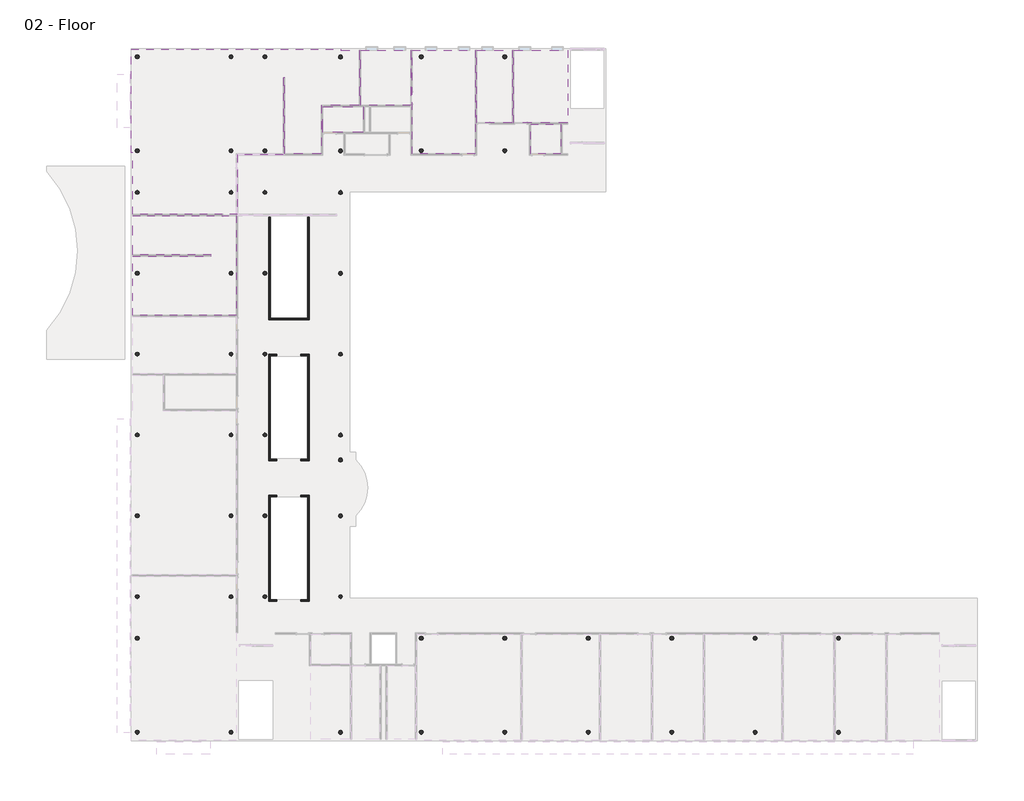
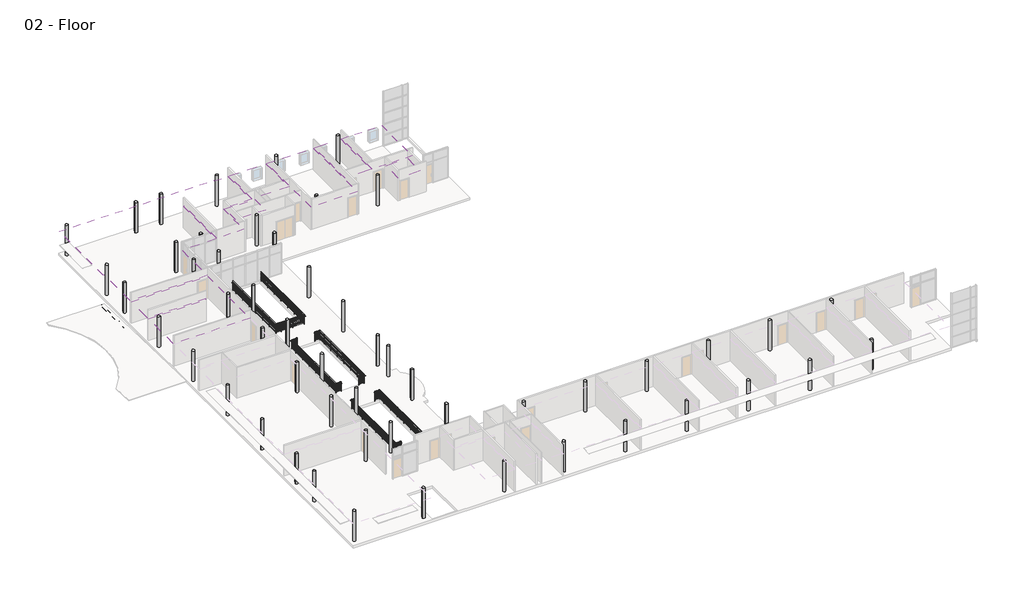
# One storey, part 5 of 5: 53 columns, 8 coverings, 5 railings, 2 beams.
"""IFC4 building model written with IfcOpenShell, lengths in millimetres."""

from ifc_helpers import new_model, si_unit, point, frame, frame_2d, origin, place, context, project, spatial, polyline, circle_curve, trimmed, segment, composite_curve, outline, extrude, transform, mapped, element, save
from components import w_wide_flange_w12x26_481373e5, w_wide_flange_w12x26_f0aa8a0b, guardrail_pipe_205078b6, guardrail_pipe_9d1b1329, guardrail_pipe_d5d2aec2, guardrail_pipe_e3ced1c5, guardrail_pipe_2c45154f

model = new_model("IFC4")

# Units and contexts
model_context = context("Model", 3, world=origin())
ifc_project = project(units=[si_unit("LENGTHUNIT", "METRE", prefix="MILLI")], contexts=[model_context])

# Site, building, storey
site = spatial("IfcSite", under=ifc_project)
building = spatial("IfcBuilding", under=site)
storey = spatial("IfcBuildingStorey", under=building, Name="02 - Floor", Elevation=3657.6)

# Beams
placement = place(None, origin())
w_wide_flange_w12x26_shape = w_wide_flange_w12x26_481373e5(model_context)
element("IfcBeam", 1, ObjectType="W-Wide Flange : W12X26", at=placement, inside=storey, context=model_context, shape_type="MappedRepresentation", body=[
    mapped(w_wide_flange_w12x26_shape, transform((-6018.8792524, 30981.9242436, 3911.1226133), x_axis=(0.0, -0.9995616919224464, 0.029604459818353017), y_axis=(1.0, 0.0, 0.0), z_axis=(0.0, 0.029604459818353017, 0.9995616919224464))),
])
w_wide_flange_w12x26_2_shape = w_wide_flange_w12x26_f0aa8a0b(model_context)
element("IfcBeam", 2, ObjectType="W-Wide Flange : W12X26", at=placement, inside=storey, context=model_context, shape_type="MappedRepresentation", body=[
    mapped(w_wide_flange_w12x26_2_shape, transform((-532.4792524, 37372.862881, 3751.8615157), x_axis=(0.0, -0.9996747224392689, 0.025503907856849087), y_axis=(1.0, 0.0, 0.0), z_axis=(0.0, 0.025503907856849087, 0.9996747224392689))),
])

# Columns
element("IfcColumn", 3, ObjectType="Concrete-Round-Column : 12\"", at=placement, inside=storey, context=model_context, shape_type="SweptSolid", body=[
    extrude(outline(composite_curve([segment(trimmed(circle_curve(frame_2d((635.9207476, 53228.8)), 152.4), [point((788.3207476, 53228.8))], [point((483.5207476, 53228.8))], False, "CARTESIAN"), True, "CONTINUOUS"), segment(trimmed(circle_curve(frame_2d((635.9207476, 53228.8)), 152.4), [point((483.5207476, 53228.8))], [point((788.3207476, 53228.8))], False, "CARTESIAN"), True, "CONTINUOUS")], self_intersect=False)), frame((0.0, 0.0, 3657.6), z_axis=(0.0, 0.0, 1.0), x_axis=(1.0, 0.0, 0.0)), (0.0, 0.0, 1.0), 3403.6),
])
element("IfcColumn", 4, ObjectType="Concrete-Round-Column : 12\"", at=placement, inside=storey, context=model_context, shape_type="SweptSolid", body=[
    extrude(outline(composite_curve([segment(trimmed(circle_curve(frame_2d((635.9207476, 45913.6)), 152.4), [point((788.3207476, 45913.6))], [point((483.5207476, 45913.6))], False, "CARTESIAN"), True, "CONTINUOUS"), segment(trimmed(circle_curve(frame_2d((635.9207476, 45913.6)), 152.4), [point((483.5207476, 45913.6))], [point((788.3207476, 45913.6))], False, "CARTESIAN"), True, "CONTINUOUS")], self_intersect=False)), frame((0.0, 0.0, 3657.6), z_axis=(0.0, 0.0, 1.0), x_axis=(1.0, 0.0, 0.0)), (0.0, 0.0, 1.0), 3403.6),
])
element("IfcColumn", 5, ObjectType="Concrete-Round-Column : 12\"", at=placement, inside=storey, context=model_context, shape_type="SweptSolid", body=[
    extrude(outline(composite_curve([segment(trimmed(circle_curve(frame_2d((635.9207476, 42662.4)), 152.4), [point((788.3207476, 42662.4))], [point((483.5207476, 42662.4))], False, "CARTESIAN"), True, "CONTINUOUS"), segment(trimmed(circle_curve(frame_2d((635.9207476, 42662.4)), 152.4), [point((483.5207476, 42662.4))], [point((788.3207476, 42662.4))], False, "CARTESIAN"), True, "CONTINUOUS")], self_intersect=False)), frame((0.0, 0.0, 3657.6), z_axis=(0.0, 0.0, 1.0), x_axis=(1.0, 0.0, 0.0)), (0.0, 0.0, 1.0), 3403.6),
])
element("IfcColumn", 6, ObjectType="Concrete-Round-Column : 12\"", at=placement, inside=storey, context=model_context, shape_type="SweptSolid", body=[
    extrude(outline(composite_curve([segment(trimmed(circle_curve(frame_2d((635.9207476, 36363.2)), 152.4), [point((788.3207476, 36363.2))], [point((483.5207476, 36363.2))], False, "CARTESIAN"), True, "CONTINUOUS"), segment(trimmed(circle_curve(frame_2d((635.9207476, 36363.2)), 152.4), [point((483.5207476, 36363.2))], [point((788.3207476, 36363.2))], False, "CARTESIAN"), True, "CONTINUOUS")], self_intersect=False)), frame((0.0, 0.0, 3657.6), z_axis=(0.0, 0.0, 1.0), x_axis=(1.0, 0.0, 0.0)), (0.0, 0.0, 1.0), 3403.6),
])
element("IfcColumn", 7, ObjectType="Concrete-Round-Column : 12\"", at=placement, inside=storey, context=model_context, shape_type="SweptSolid", body=[
    extrude(outline(composite_curve([segment(trimmed(circle_curve(frame_2d((635.9207476, 30064.0)), 152.4), [point((788.3207476, 30064.0))], [point((483.5207476, 30064.0))], False, "CARTESIAN"), True, "CONTINUOUS"), segment(trimmed(circle_curve(frame_2d((635.9207476, 30064.0)), 152.4), [point((483.5207476, 30064.0))], [point((788.3207476, 30064.0))], False, "CARTESIAN"), True, "CONTINUOUS")], self_intersect=False)), frame((0.0, 0.0, 3657.6), z_axis=(0.0, 0.0, 1.0), x_axis=(1.0, 0.0, 0.0)), (0.0, 0.0, 1.0), 3403.6),
])
element("IfcColumn", 8, ObjectType="Concrete-Round-Column : 12\"", at=placement, inside=storey, context=model_context, shape_type="SweptSolid", body=[
    extrude(outline(composite_curve([segment(trimmed(circle_curve(frame_2d((635.9207476, 23764.8)), 152.4), [point((788.3207476, 23764.8))], [point((483.5207476, 23764.8))], False, "CARTESIAN"), True, "CONTINUOUS"), segment(trimmed(circle_curve(frame_2d((635.9207476, 23764.8)), 152.4), [point((483.5207476, 23764.8))], [point((788.3207476, 23764.8))], False, "CARTESIAN"), True, "CONTINUOUS")], self_intersect=False)), frame((0.0, 0.0, 3657.6), z_axis=(0.0, 0.0, 1.0), x_axis=(1.0, 0.0, 0.0)), (0.0, 0.0, 1.0), 3403.6),
])
element("IfcColumn", 9, ObjectType="Concrete-Round-Column : 12\"", at=placement, inside=storey, context=model_context, shape_type="SweptSolid", body=[
    extrude(outline(composite_curve([segment(trimmed(circle_curve(frame_2d((635.9207476, 17465.6)), 152.4), [point((788.3207476, 17465.6))], [point((483.5207476, 17465.6))], False, "CARTESIAN"), True, "CONTINUOUS"), segment(trimmed(circle_curve(frame_2d((635.9207476, 17465.6)), 152.4), [point((483.5207476, 17465.6))], [point((788.3207476, 17465.6))], False, "CARTESIAN"), True, "CONTINUOUS")], self_intersect=False)), frame((0.0, 0.0, 3657.6), z_axis=(0.0, 0.0, 1.0), x_axis=(1.0, 0.0, 0.0)), (0.0, 0.0, 1.0), 3403.6),
])
element("IfcColumn", 10, ObjectType="Concrete-Round-Column : 12\"", at=placement, inside=storey, context=model_context, shape_type="SweptSolid", body=[
    extrude(outline(composite_curve([segment(trimmed(circle_curve(frame_2d((635.9207476, 11166.4)), 152.4), [point((788.3207476, 11166.4))], [point((483.5207476, 11166.4))], False, "CARTESIAN"), True, "CONTINUOUS"), segment(trimmed(circle_curve(frame_2d((635.9207476, 11166.4)), 152.4), [point((483.5207476, 11166.4))], [point((788.3207476, 11166.4))], False, "CARTESIAN"), True, "CONTINUOUS")], self_intersect=False)), frame((0.0, 0.0, 3657.6), z_axis=(0.0, 0.0, 1.0), x_axis=(1.0, 0.0, 0.0)), (0.0, 0.0, 1.0), 3403.6),
])
element("IfcColumn", 11, ObjectType="Concrete-Round-Column : 12\"", at=placement, inside=storey, context=model_context, shape_type="SweptSolid", body=[
    extrude(outline(composite_curve([segment(trimmed(circle_curve(frame_2d((635.9207476, 7915.2)), 152.4), [point((788.3207476, 7915.2))], [point((483.5207476, 7915.2))], False, "CARTESIAN"), True, "CONTINUOUS"), segment(trimmed(circle_curve(frame_2d((635.9207476, 7915.2)), 152.4), [point((483.5207476, 7915.2))], [point((788.3207476, 7915.2))], False, "CARTESIAN"), True, "CONTINUOUS")], self_intersect=False)), frame((0.0, 0.0, 3657.6), z_axis=(0.0, 0.0, 1.0), x_axis=(1.0, 0.0, 0.0)), (0.0, 0.0, 1.0), 3403.6),
])
element("IfcColumn", 12, ObjectType="Concrete-Round-Column : 12\"", at=placement, inside=storey, context=model_context, shape_type="SweptSolid", body=[
    extrude(outline(composite_curve([segment(trimmed(circle_curve(frame_2d((635.9207476, 600.0)), 152.4), [point((788.3207476, 600.0))], [point((483.5207476, 600.0))], False, "CARTESIAN"), True, "CONTINUOUS"), segment(trimmed(circle_curve(frame_2d((635.9207476, 600.0)), 152.4), [point((483.5207476, 600.0))], [point((788.3207476, 600.0))], False, "CARTESIAN"), True, "CONTINUOUS")], self_intersect=False)), frame((0.0, 0.0, 3657.6), z_axis=(0.0, 0.0, 1.0), x_axis=(1.0, 0.0, 0.0)), (0.0, 0.0, 1.0), 3403.6),
])
element("IfcColumn", 13, ObjectType="Concrete-Round-Column : 12\"", at=placement, inside=storey, context=model_context, shape_type="SweptSolid", body=[
    extrude(outline(composite_curve([segment(trimmed(circle_curve(frame_2d((10592.7207476, 53228.8)), 152.4), [point((10745.1207476, 53228.8))], [point((10440.3207476, 53228.8))], False, "CARTESIAN"), True, "CONTINUOUS"), segment(trimmed(circle_curve(frame_2d((10592.7207476, 53228.8)), 152.4), [point((10440.3207476, 53228.8))], [point((10745.1207476, 53228.8))], False, "CARTESIAN"), True, "CONTINUOUS")], self_intersect=False)), frame((0.0, 0.0, 3657.6), z_axis=(0.0, 0.0, 1.0), x_axis=(1.0, 0.0, 0.0)), (0.0, 0.0, 1.0), 3403.6),
])
element("IfcColumn", 14, ObjectType="Concrete-Round-Column : 12\"", at=placement, inside=storey, context=model_context, shape_type="SweptSolid", body=[
    extrude(outline(composite_curve([segment(trimmed(circle_curve(frame_2d((10592.7207476, 45913.6)), 152.4), [point((10745.1207476, 45913.6))], [point((10440.3207476, 45913.6))], False, "CARTESIAN"), True, "CONTINUOUS"), segment(trimmed(circle_curve(frame_2d((10592.7207476, 45913.6)), 152.4), [point((10440.3207476, 45913.6))], [point((10745.1207476, 45913.6))], False, "CARTESIAN"), True, "CONTINUOUS")], self_intersect=False)), frame((0.0, 0.0, 3657.6), z_axis=(0.0, 0.0, 1.0), x_axis=(1.0, 0.0, 0.0)), (0.0, 0.0, 1.0), 3403.6),
])
element("IfcColumn", 15, ObjectType="Concrete-Round-Column : 12\"", at=placement, inside=storey, context=model_context, shape_type="SweptSolid", body=[
    extrude(outline(composite_curve([segment(trimmed(circle_curve(frame_2d((10592.7207476, 42662.4)), 152.4), [point((10745.1207476, 42662.4))], [point((10440.3207476, 42662.4))], False, "CARTESIAN"), True, "CONTINUOUS"), segment(trimmed(circle_curve(frame_2d((10592.7207476, 42662.4)), 152.4), [point((10440.3207476, 42662.4))], [point((10745.1207476, 42662.4))], False, "CARTESIAN"), True, "CONTINUOUS")], self_intersect=False)), frame((0.0, 0.0, 3657.6), z_axis=(0.0, 0.0, 1.0), x_axis=(1.0, 0.0, 0.0)), (0.0, 0.0, 1.0), 3403.6),
])
element("IfcColumn", 16, ObjectType="Concrete-Round-Column : 12\"", at=placement, inside=storey, context=model_context, shape_type="SweptSolid", body=[
    extrude(outline(composite_curve([segment(trimmed(circle_curve(frame_2d((10592.7207476, 36363.2)), 152.4), [point((10745.1207476, 36363.2))], [point((10440.3207476, 36363.2))], False, "CARTESIAN"), True, "CONTINUOUS"), segment(trimmed(circle_curve(frame_2d((10592.7207476, 36363.2)), 152.4), [point((10440.3207476, 36363.2))], [point((10745.1207476, 36363.2))], False, "CARTESIAN"), True, "CONTINUOUS")], self_intersect=False)), frame((0.0, 0.0, 3657.6), z_axis=(0.0, 0.0, 1.0), x_axis=(1.0, 0.0, 0.0)), (0.0, 0.0, 1.0), 3403.6),
])
element("IfcColumn", 17, ObjectType="Concrete-Round-Column : 12\"", at=placement, inside=storey, context=model_context, shape_type="SweptSolid", body=[
    extrude(outline(composite_curve([segment(trimmed(circle_curve(frame_2d((10592.7207476, 30064.0)), 152.4), [point((10745.1207476, 30064.0))], [point((10440.3207476, 30064.0))], False, "CARTESIAN"), True, "CONTINUOUS"), segment(trimmed(circle_curve(frame_2d((10592.7207476, 30064.0)), 152.4), [point((10440.3207476, 30064.0))], [point((10745.1207476, 30064.0))], False, "CARTESIAN"), True, "CONTINUOUS")], self_intersect=False)), frame((0.0, 0.0, 3657.6), z_axis=(0.0, 0.0, 1.0), x_axis=(1.0, 0.0, 0.0)), (0.0, 0.0, 1.0), 3403.6),
])
element("IfcColumn", 18, ObjectType="Concrete-Round-Column : 12\"", at=placement, inside=storey, context=model_context, shape_type="SweptSolid", body=[
    extrude(outline(composite_curve([segment(trimmed(circle_curve(frame_2d((10592.7207476, 23764.8)), 152.4), [point((10745.1207476, 23764.8))], [point((10440.3207476, 23764.8))], False, "CARTESIAN"), True, "CONTINUOUS"), segment(trimmed(circle_curve(frame_2d((10592.7207476, 23764.8)), 152.4), [point((10440.3207476, 23764.8))], [point((10745.1207476, 23764.8))], False, "CARTESIAN"), True, "CONTINUOUS")], self_intersect=False)), frame((0.0, 0.0, 3657.6), z_axis=(0.0, 0.0, 1.0), x_axis=(1.0, 0.0, 0.0)), (0.0, 0.0, 1.0), 3403.6),
])
element("IfcColumn", 19, ObjectType="Concrete-Round-Column : 12\"", at=placement, inside=storey, context=model_context, shape_type="SweptSolid", body=[
    extrude(outline(composite_curve([segment(trimmed(circle_curve(frame_2d((10592.7207476, 17465.6)), 152.4), [point((10745.1207476, 17465.6))], [point((10440.3207476, 17465.6))], False, "CARTESIAN"), True, "CONTINUOUS"), segment(trimmed(circle_curve(frame_2d((10592.7207476, 17465.6)), 152.4), [point((10440.3207476, 17465.6))], [point((10745.1207476, 17465.6))], False, "CARTESIAN"), True, "CONTINUOUS")], self_intersect=False)), frame((0.0, 0.0, 3657.6), z_axis=(0.0, 0.0, 1.0), x_axis=(1.0, 0.0, 0.0)), (0.0, 0.0, 1.0), 3403.6),
])
element("IfcColumn", 20, ObjectType="Concrete-Round-Column : 12\"", at=placement, inside=storey, context=model_context, shape_type="SweptSolid", body=[
    extrude(outline(composite_curve([segment(trimmed(circle_curve(frame_2d((10592.7207476, 11166.4)), 152.4), [point((10745.1207476, 11166.4))], [point((10440.3207476, 11166.4))], False, "CARTESIAN"), True, "CONTINUOUS"), segment(trimmed(circle_curve(frame_2d((10592.7207476, 11166.4)), 152.4), [point((10440.3207476, 11166.4))], [point((10745.1207476, 11166.4))], False, "CARTESIAN"), True, "CONTINUOUS")], self_intersect=False)), frame((0.0, 0.0, 3657.6), z_axis=(0.0, 0.0, 1.0), x_axis=(1.0, 0.0, 0.0)), (0.0, 0.0, 1.0), 3403.6),
])
element("IfcColumn", 21, ObjectType="Concrete-Round-Column : 12\"", at=placement, inside=storey, context=model_context, shape_type="SweptSolid", body=[
    extrude(outline(composite_curve([segment(trimmed(circle_curve(frame_2d((16485.5207476, 53228.8)), 152.4), [point((16637.9207476, 53228.8))], [point((16333.1207476, 53228.8))], False, "CARTESIAN"), True, "CONTINUOUS"), segment(trimmed(circle_curve(frame_2d((16485.5207476, 53228.8)), 152.4), [point((16333.1207476, 53228.8))], [point((16637.9207476, 53228.8))], False, "CARTESIAN"), True, "CONTINUOUS")], self_intersect=False)), frame((0.0, 0.0, 3657.6), z_axis=(0.0, 0.0, 1.0), x_axis=(1.0, 0.0, 0.0)), (0.0, 0.0, 1.0), 3403.6),
])
element("IfcColumn", 22, ObjectType="Concrete-Round-Column : 12\"", at=placement, inside=storey, context=model_context, shape_type="SweptSolid", body=[
    extrude(outline(composite_curve([segment(trimmed(circle_curve(frame_2d((16485.5207476, 45913.6)), 152.4), [point((16637.9207476, 45913.6))], [point((16333.1207476, 45913.6))], False, "CARTESIAN"), True, "CONTINUOUS"), segment(trimmed(circle_curve(frame_2d((16485.5207476, 45913.6)), 152.4), [point((16333.1207476, 45913.6))], [point((16637.9207476, 45913.6))], False, "CARTESIAN"), True, "CONTINUOUS")], self_intersect=False)), frame((0.0, 0.0, 3657.6), z_axis=(0.0, 0.0, 1.0), x_axis=(1.0, 0.0, 0.0)), (0.0, 0.0, 1.0), 3403.6),
])
element("IfcColumn", 23, ObjectType="Concrete-Round-Column : 12\"", at=placement, inside=storey, context=model_context, shape_type="SweptSolid", body=[
    extrude(outline(composite_curve([segment(trimmed(circle_curve(frame_2d((16485.5207476, 42662.4)), 152.4), [point((16637.9207476, 42662.4))], [point((16333.1207476, 42662.4))], False, "CARTESIAN"), True, "CONTINUOUS"), segment(trimmed(circle_curve(frame_2d((16485.5207476, 42662.4)), 152.4), [point((16333.1207476, 42662.4))], [point((16637.9207476, 42662.4))], False, "CARTESIAN"), True, "CONTINUOUS")], self_intersect=False)), frame((0.0, 0.0, 3657.6), z_axis=(0.0, 0.0, 1.0), x_axis=(1.0, 0.0, 0.0)), (0.0, 0.0, 1.0), 3403.6),
])
element("IfcColumn", 24, ObjectType="Concrete-Round-Column : 12\"", at=placement, inside=storey, context=model_context, shape_type="SweptSolid", body=[
    extrude(outline(composite_curve([segment(trimmed(circle_curve(frame_2d((16485.5207476, 36363.2)), 152.4), [point((16637.9207476, 36363.2))], [point((16333.1207476, 36363.2))], False, "CARTESIAN"), True, "CONTINUOUS"), segment(trimmed(circle_curve(frame_2d((16485.5207476, 36363.2)), 152.4), [point((16333.1207476, 36363.2))], [point((16637.9207476, 36363.2))], False, "CARTESIAN"), True, "CONTINUOUS")], self_intersect=False)), frame((0.0, 0.0, 3657.6), z_axis=(0.0, 0.0, 1.0), x_axis=(1.0, 0.0, 0.0)), (0.0, 0.0, 1.0), 3403.6),
])
element("IfcColumn", 25, ObjectType="Concrete-Round-Column : 12\"", at=placement, inside=storey, context=model_context, shape_type="SweptSolid", body=[
    extrude(outline(composite_curve([segment(trimmed(circle_curve(frame_2d((16485.5207476, 30064.0)), 152.4), [point((16637.9207476, 30064.0))], [point((16333.1207476, 30064.0))], False, "CARTESIAN"), True, "CONTINUOUS"), segment(trimmed(circle_curve(frame_2d((16485.5207476, 30064.0)), 152.4), [point((16333.1207476, 30064.0))], [point((16637.9207476, 30064.0))], False, "CARTESIAN"), True, "CONTINUOUS")], self_intersect=False)), frame((0.0, 0.0, 3657.6), z_axis=(0.0, 0.0, 1.0), x_axis=(1.0, 0.0, 0.0)), (0.0, 0.0, 1.0), 3403.6),
])
element("IfcColumn", 26, ObjectType="Concrete-Round-Column : 12\"", at=placement, inside=storey, context=model_context, shape_type="SweptSolid", body=[
    extrude(outline(composite_curve([segment(trimmed(circle_curve(frame_2d((16485.5207476, 23764.8)), 152.4), [point((16637.9207476, 23764.8))], [point((16333.1207476, 23764.8))], False, "CARTESIAN"), True, "CONTINUOUS"), segment(trimmed(circle_curve(frame_2d((16485.5207476, 23764.8)), 152.4), [point((16333.1207476, 23764.8))], [point((16637.9207476, 23764.8))], False, "CARTESIAN"), True, "CONTINUOUS")], self_intersect=False)), frame((0.0, 0.0, 3657.6), z_axis=(0.0, 0.0, 1.0), x_axis=(1.0, 0.0, 0.0)), (0.0, 0.0, 1.0), 3403.6),
])
element("IfcColumn", 27, ObjectType="Concrete-Round-Column : 12\"", at=placement, inside=storey, context=model_context, shape_type="SweptSolid", body=[
    extrude(outline(composite_curve([segment(trimmed(circle_curve(frame_2d((16485.5207476, 17465.6)), 152.4), [point((16637.9207476, 17465.6))], [point((16333.1207476, 17465.6))], False, "CARTESIAN"), True, "CONTINUOUS"), segment(trimmed(circle_curve(frame_2d((16485.5207476, 17465.6)), 152.4), [point((16333.1207476, 17465.6))], [point((16637.9207476, 17465.6))], False, "CARTESIAN"), True, "CONTINUOUS")], self_intersect=False)), frame((0.0, 0.0, 3657.6), z_axis=(0.0, 0.0, 1.0), x_axis=(1.0, 0.0, 0.0)), (0.0, 0.0, 1.0), 3403.6),
])
element("IfcColumn", 28, ObjectType="Concrete-Round-Column : 12\"", at=placement, inside=storey, context=model_context, shape_type="SweptSolid", body=[
    extrude(outline(composite_curve([segment(trimmed(circle_curve(frame_2d((16485.5207476, 11166.4)), 152.4), [point((16637.9207476, 11166.4))], [point((16333.1207476, 11166.4))], False, "CARTESIAN"), True, "CONTINUOUS"), segment(trimmed(circle_curve(frame_2d((16485.5207476, 11166.4)), 152.4), [point((16333.1207476, 11166.4))], [point((16637.9207476, 11166.4))], False, "CARTESIAN"), True, "CONTINUOUS")], self_intersect=False)), frame((0.0, 0.0, 3657.6), z_axis=(0.0, 0.0, 1.0), x_axis=(1.0, 0.0, 0.0)), (0.0, 0.0, 1.0), 3403.6),
])
element("IfcColumn", 29, ObjectType="Concrete-Round-Column : 12\"", at=placement, inside=storey, context=model_context, shape_type="SweptSolid", body=[
    extrude(outline(composite_curve([segment(trimmed(circle_curve(frame_2d((16485.5207476, 600.0)), 152.4), [point((16637.9207476, 600.0))], [point((16333.1207476, 600.0))], False, "CARTESIAN"), True, "CONTINUOUS"), segment(trimmed(circle_curve(frame_2d((16485.5207476, 600.0)), 152.4), [point((16333.1207476, 600.0))], [point((16637.9207476, 600.0))], False, "CARTESIAN"), True, "CONTINUOUS")], self_intersect=False)), frame((0.0, 0.0, 3657.6), z_axis=(0.0, 0.0, 1.0), x_axis=(1.0, 0.0, 0.0)), (0.0, 0.0, 1.0), 3403.6),
])
element("IfcColumn", 30, ObjectType="Concrete-Round-Column : 12\"", at=placement, inside=storey, context=model_context, shape_type="SweptSolid", body=[
    extrude(outline(composite_curve([segment(trimmed(circle_curve(frame_2d((16485.5207476, 21821.7)), 152.4), [point((16637.9207476, 21821.7))], [point((16333.1207476, 21821.7))], False, "CARTESIAN"), True, "CONTINUOUS"), segment(trimmed(circle_curve(frame_2d((16485.5207476, 21821.7)), 152.4), [point((16333.1207476, 21821.7))], [point((16637.9207476, 21821.7))], False, "CARTESIAN"), True, "CONTINUOUS")], self_intersect=False)), frame((0.0, 0.0, 3657.6), z_axis=(0.0, 0.0, 1.0), x_axis=(1.0, 0.0, 0.0)), (0.0, 0.0, 1.0), 3403.6),
])
element("IfcColumn", 31, ObjectType="Concrete-Round-Column : 12\"", at=placement, inside=storey, context=model_context, shape_type="SweptSolid", body=[
    extrude(outline(composite_curve([segment(trimmed(circle_curve(frame_2d((22784.7207476, 53228.8)), 152.4), [point((22937.1207476, 53228.8))], [point((22632.3207476, 53228.8))], False, "CARTESIAN"), True, "CONTINUOUS"), segment(trimmed(circle_curve(frame_2d((22784.7207476, 53228.8)), 152.4), [point((22632.3207476, 53228.8))], [point((22937.1207476, 53228.8))], False, "CARTESIAN"), True, "CONTINUOUS")], self_intersect=False)), frame((0.0, 0.0, 3657.6), z_axis=(0.0, 0.0, 1.0), x_axis=(1.0, 0.0, 0.0)), (0.0, 0.0, 1.0), 3403.6),
])
element("IfcColumn", 32, ObjectType="Concrete-Round-Column : 12\"", at=placement, inside=storey, context=model_context, shape_type="SweptSolid", body=[
    extrude(outline(composite_curve([segment(trimmed(circle_curve(frame_2d((22784.7207476, 45913.6)), 152.4), [point((22937.1207476, 45913.6))], [point((22632.3207476, 45913.6))], False, "CARTESIAN"), True, "CONTINUOUS"), segment(trimmed(circle_curve(frame_2d((22784.7207476, 45913.6)), 152.4), [point((22632.3207476, 45913.6))], [point((22937.1207476, 45913.6))], False, "CARTESIAN"), True, "CONTINUOUS")], self_intersect=False)), frame((0.0, 0.0, 3657.6), z_axis=(0.0, 0.0, 1.0), x_axis=(1.0, 0.0, 0.0)), (0.0, 0.0, 1.0), 3403.6),
])
element("IfcColumn", 33, ObjectType="Concrete-Round-Column : 12\"", at=placement, inside=storey, context=model_context, shape_type="SweptSolid", body=[
    extrude(outline(composite_curve([segment(trimmed(circle_curve(frame_2d((22784.7207476, 7915.2)), 152.4), [point((22937.1207476, 7915.2))], [point((22632.3207476, 7915.2))], False, "CARTESIAN"), True, "CONTINUOUS"), segment(trimmed(circle_curve(frame_2d((22784.7207476, 7915.2)), 152.4), [point((22632.3207476, 7915.2))], [point((22937.1207476, 7915.2))], False, "CARTESIAN"), True, "CONTINUOUS")], self_intersect=False)), frame((0.0, 0.0, 3657.6), z_axis=(0.0, 0.0, 1.0), x_axis=(1.0, 0.0, 0.0)), (0.0, 0.0, 1.0), 3403.6),
])
element("IfcColumn", 34, ObjectType="Concrete-Round-Column : 12\"", at=placement, inside=storey, context=model_context, shape_type="SweptSolid", body=[
    extrude(outline(composite_curve([segment(trimmed(circle_curve(frame_2d((22784.7207476, 600.0)), 152.4), [point((22937.1207476, 600.0))], [point((22632.3207476, 600.0))], False, "CARTESIAN"), True, "CONTINUOUS"), segment(trimmed(circle_curve(frame_2d((22784.7207476, 600.0)), 152.4), [point((22632.3207476, 600.0))], [point((22937.1207476, 600.0))], False, "CARTESIAN"), True, "CONTINUOUS")], self_intersect=False)), frame((0.0, 0.0, 3657.6), z_axis=(0.0, 0.0, 1.0), x_axis=(1.0, 0.0, 0.0)), (0.0, 0.0, 1.0), 3403.6),
])
element("IfcColumn", 35, ObjectType="Concrete-Round-Column : 12\"", at=placement, inside=storey, context=model_context, shape_type="SweptSolid", body=[
    extrude(outline(composite_curve([segment(trimmed(circle_curve(frame_2d((29287.1207476, 53228.8)), 152.4), [point((29439.5207476, 53228.8))], [point((29134.7207476, 53228.8))], False, "CARTESIAN"), True, "CONTINUOUS"), segment(trimmed(circle_curve(frame_2d((29287.1207476, 53228.8)), 152.4), [point((29134.7207476, 53228.8))], [point((29439.5207476, 53228.8))], False, "CARTESIAN"), True, "CONTINUOUS")], self_intersect=False)), frame((0.0, 0.0, 3657.6), z_axis=(0.0, 0.0, 1.0), x_axis=(1.0, 0.0, 0.0)), (0.0, 0.0, 1.0), 3403.6),
])
element("IfcColumn", 36, ObjectType="Concrete-Round-Column : 12\"", at=placement, inside=storey, context=model_context, shape_type="SweptSolid", body=[
    extrude(outline(composite_curve([segment(trimmed(circle_curve(frame_2d((29287.1207476, 45913.6)), 152.4), [point((29439.5207476, 45913.6))], [point((29134.7207476, 45913.6))], False, "CARTESIAN"), True, "CONTINUOUS"), segment(trimmed(circle_curve(frame_2d((29287.1207476, 45913.6)), 152.4), [point((29134.7207476, 45913.6))], [point((29439.5207476, 45913.6))], False, "CARTESIAN"), True, "CONTINUOUS")], self_intersect=False)), frame((0.0, 0.0, 3657.6), z_axis=(0.0, 0.0, 1.0), x_axis=(1.0, 0.0, 0.0)), (0.0, 0.0, 1.0), 3403.6),
])
element("IfcColumn", 37, ObjectType="Concrete-Round-Column : 12\"", at=placement, inside=storey, context=model_context, shape_type="SweptSolid", body=[
    extrude(outline(composite_curve([segment(trimmed(circle_curve(frame_2d((29287.1207476, 7915.2)), 152.4), [point((29439.5207476, 7915.2))], [point((29134.7207476, 7915.2))], False, "CARTESIAN"), True, "CONTINUOUS"), segment(trimmed(circle_curve(frame_2d((29287.1207476, 7915.2)), 152.4), [point((29134.7207476, 7915.2))], [point((29439.5207476, 7915.2))], False, "CARTESIAN"), True, "CONTINUOUS")], self_intersect=False)), frame((0.0, 0.0, 3657.6), z_axis=(0.0, 0.0, 1.0), x_axis=(1.0, 0.0, 0.0)), (0.0, 0.0, 1.0), 3403.6),
])
element("IfcColumn", 38, ObjectType="Concrete-Round-Column : 12\"", at=placement, inside=storey, context=model_context, shape_type="SweptSolid", body=[
    extrude(outline(composite_curve([segment(trimmed(circle_curve(frame_2d((29287.1207476, 600.0)), 152.4), [point((29439.5207476, 600.0))], [point((29134.7207476, 600.0))], False, "CARTESIAN"), True, "CONTINUOUS"), segment(trimmed(circle_curve(frame_2d((29287.1207476, 600.0)), 152.4), [point((29134.7207476, 600.0))], [point((29439.5207476, 600.0))], False, "CARTESIAN"), True, "CONTINUOUS")], self_intersect=False)), frame((0.0, 0.0, 3657.6), z_axis=(0.0, 0.0, 1.0), x_axis=(1.0, 0.0, 0.0)), (0.0, 0.0, 1.0), 3403.6),
])
element("IfcColumn", 39, ObjectType="Concrete-Round-Column : 12\"", at=placement, inside=storey, context=model_context, shape_type="SweptSolid", body=[
    extrude(outline(composite_curve([segment(trimmed(circle_curve(frame_2d((35789.5207476, 7915.2)), 152.4), [point((35941.9207476, 7915.2))], [point((35637.1207476, 7915.2))], False, "CARTESIAN"), True, "CONTINUOUS"), segment(trimmed(circle_curve(frame_2d((35789.5207476, 7915.2)), 152.4), [point((35637.1207476, 7915.2))], [point((35941.9207476, 7915.2))], False, "CARTESIAN"), True, "CONTINUOUS")], self_intersect=False)), frame((0.0, 0.0, 3657.6), z_axis=(0.0, 0.0, 1.0), x_axis=(1.0, 0.0, 0.0)), (0.0, 0.0, 1.0), 3403.6),
])
element("IfcColumn", 40, ObjectType="Concrete-Round-Column : 12\"", at=placement, inside=storey, context=model_context, shape_type="SweptSolid", body=[
    extrude(outline(composite_curve([segment(trimmed(circle_curve(frame_2d((35789.5207476, 600.0)), 152.4), [point((35941.9207476, 600.0))], [point((35637.1207476, 600.0))], False, "CARTESIAN"), True, "CONTINUOUS"), segment(trimmed(circle_curve(frame_2d((35789.5207476, 600.0)), 152.4), [point((35637.1207476, 600.0))], [point((35941.9207476, 600.0))], False, "CARTESIAN"), True, "CONTINUOUS")], self_intersect=False)), frame((0.0, 0.0, 3657.6), z_axis=(0.0, 0.0, 1.0), x_axis=(1.0, 0.0, 0.0)), (0.0, 0.0, 1.0), 3403.6),
])
element("IfcColumn", 41, ObjectType="Concrete-Round-Column : 12\"", at=placement, inside=storey, context=model_context, shape_type="SweptSolid", body=[
    extrude(outline(composite_curve([segment(trimmed(circle_curve(frame_2d((42291.9207476, 7915.2)), 152.4), [point((42444.3207476, 7915.2))], [point((42139.5207476, 7915.2))], False, "CARTESIAN"), True, "CONTINUOUS"), segment(trimmed(circle_curve(frame_2d((42291.9207476, 7915.2)), 152.4), [point((42139.5207476, 7915.2))], [point((42444.3207476, 7915.2))], False, "CARTESIAN"), True, "CONTINUOUS")], self_intersect=False)), frame((0.0, 0.0, 3657.6), z_axis=(0.0, 0.0, 1.0), x_axis=(1.0, 0.0, 0.0)), (0.0, 0.0, 1.0), 3403.6),
])
element("IfcColumn", 42, ObjectType="Concrete-Round-Column : 12\"", at=placement, inside=storey, context=model_context, shape_type="SweptSolid", body=[
    extrude(outline(composite_curve([segment(trimmed(circle_curve(frame_2d((42291.9207476, 600.0)), 152.4), [point((42444.3207476, 600.0))], [point((42139.5207476, 600.0))], False, "CARTESIAN"), True, "CONTINUOUS"), segment(trimmed(circle_curve(frame_2d((42291.9207476, 600.0)), 152.4), [point((42139.5207476, 600.0))], [point((42444.3207476, 600.0))], False, "CARTESIAN"), True, "CONTINUOUS")], self_intersect=False)), frame((0.0, 0.0, 3657.6), z_axis=(0.0, 0.0, 1.0), x_axis=(1.0, 0.0, 0.0)), (0.0, 0.0, 1.0), 3403.6),
])
element("IfcColumn", 43, ObjectType="Concrete-Round-Column : 12\"", at=placement, inside=storey, context=model_context, shape_type="SweptSolid", body=[
    extrude(outline(composite_curve([segment(trimmed(circle_curve(frame_2d((48794.3207476, 7915.2)), 152.4), [point((48946.7207476, 7915.2))], [point((48641.9207476, 7915.2))], False, "CARTESIAN"), True, "CONTINUOUS"), segment(trimmed(circle_curve(frame_2d((48794.3207476, 7915.2)), 152.4), [point((48641.9207476, 7915.2))], [point((48946.7207476, 7915.2))], False, "CARTESIAN"), True, "CONTINUOUS")], self_intersect=False)), frame((0.0, 0.0, 3657.6), z_axis=(0.0, 0.0, 1.0), x_axis=(1.0, 0.0, 0.0)), (0.0, 0.0, 1.0), 3403.6),
])
element("IfcColumn", 44, ObjectType="Concrete-Round-Column : 12\"", at=placement, inside=storey, context=model_context, shape_type="SweptSolid", body=[
    extrude(outline(composite_curve([segment(trimmed(circle_curve(frame_2d((48794.3207476, 600.0)), 152.4), [point((48946.7207476, 600.0))], [point((48641.9207476, 600.0))], False, "CARTESIAN"), True, "CONTINUOUS"), segment(trimmed(circle_curve(frame_2d((48794.3207476, 600.0)), 152.4), [point((48641.9207476, 600.0))], [point((48946.7207476, 600.0))], False, "CARTESIAN"), True, "CONTINUOUS")], self_intersect=False)), frame((0.0, 0.0, 3657.6), z_axis=(0.0, 0.0, 1.0), x_axis=(1.0, 0.0, 0.0)), (0.0, 0.0, 1.0), 3403.6),
])
element("IfcColumn", 45, ObjectType="Concrete-Round-Column : 12\"", at=placement, inside=storey, context=model_context, shape_type="SweptSolid", body=[
    extrude(outline(composite_curve([segment(trimmed(circle_curve(frame_2d((55296.7207476, 7915.2)), 152.4), [point((55449.1207476, 7915.2))], [point((55144.3207476, 7915.2))], False, "CARTESIAN"), True, "CONTINUOUS"), segment(trimmed(circle_curve(frame_2d((55296.7207476, 7915.2)), 152.4), [point((55144.3207476, 7915.2))], [point((55449.1207476, 7915.2))], False, "CARTESIAN"), True, "CONTINUOUS")], self_intersect=False)), frame((0.0, 0.0, 3657.6), z_axis=(0.0, 0.0, 1.0), x_axis=(1.0, 0.0, 0.0)), (0.0, 0.0, 1.0), 3403.6),
])
element("IfcColumn", 46, ObjectType="Concrete-Round-Column : 12\"", at=placement, inside=storey, context=model_context, shape_type="SweptSolid", body=[
    extrude(outline(composite_curve([segment(trimmed(circle_curve(frame_2d((55296.7207476, 600.0)), 152.4), [point((55449.1207476, 600.0))], [point((55144.3207476, 600.0))], False, "CARTESIAN"), True, "CONTINUOUS"), segment(trimmed(circle_curve(frame_2d((55296.7207476, 600.0)), 152.4), [point((55144.3207476, 600.0))], [point((55449.1207476, 600.0))], False, "CARTESIAN"), True, "CONTINUOUS")], self_intersect=False)), frame((0.0, 0.0, 3657.6), z_axis=(0.0, 0.0, 1.0), x_axis=(1.0, 0.0, 0.0)), (0.0, 0.0, 1.0), 3403.6),
])
element("IfcColumn", 47, ObjectType="Concrete-Round-Column : 12\"", at=placement, inside=storey, context=model_context, shape_type="SweptSolid", body=[
    extrude(outline(composite_curve([segment(trimmed(circle_curve(frame_2d((7951.1207476, 53228.8)), 152.4), [point((8103.5207476, 53228.8))], [point((7798.7207476, 53228.8))], False, "CARTESIAN"), True, "CONTINUOUS"), segment(trimmed(circle_curve(frame_2d((7951.1207476, 53228.8)), 152.4), [point((7798.7207476, 53228.8))], [point((8103.5207476, 53228.8))], False, "CARTESIAN"), True, "CONTINUOUS")], self_intersect=False)), frame((0.0, 0.0, 3657.6), z_axis=(0.0, 0.0, 1.0), x_axis=(1.0, 0.0, 0.0)), (0.0, 0.0, 1.0), 3403.6),
])
element("IfcColumn", 48, ObjectType="Concrete-Round-Column : 12\"", at=placement, inside=storey, context=model_context, shape_type="SweptSolid", body=[
    extrude(outline(composite_curve([segment(trimmed(circle_curve(frame_2d((7951.1207476, 45913.6)), 152.4), [point((8103.5207476, 45913.6))], [point((7798.7207476, 45913.6))], False, "CARTESIAN"), True, "CONTINUOUS"), segment(trimmed(circle_curve(frame_2d((7951.1207476, 45913.6)), 152.4), [point((7798.7207476, 45913.6))], [point((8103.5207476, 45913.6))], False, "CARTESIAN"), True, "CONTINUOUS")], self_intersect=False)), frame((0.0, 0.0, 3657.6), z_axis=(0.0, 0.0, 1.0), x_axis=(1.0, 0.0, 0.0)), (0.0, 0.0, 1.0), 3403.6),
])
element("IfcColumn", 49, ObjectType="Concrete-Round-Column : 12\"", at=placement, inside=storey, context=model_context, shape_type="SweptSolid", body=[
    extrude(outline(composite_curve([segment(trimmed(circle_curve(frame_2d((7951.1207476, 42662.4)), 152.4), [point((8103.5207476, 42662.4))], [point((7798.7207476, 42662.4))], False, "CARTESIAN"), True, "CONTINUOUS"), segment(trimmed(circle_curve(frame_2d((7951.1207476, 42662.4)), 152.4), [point((7798.7207476, 42662.4))], [point((8103.5207476, 42662.4))], False, "CARTESIAN"), True, "CONTINUOUS")], self_intersect=False)), frame((0.0, 0.0, 3657.6), z_axis=(0.0, 0.0, 1.0), x_axis=(1.0, 0.0, 0.0)), (0.0, 0.0, 1.0), 3403.6),
])
element("IfcColumn", 50, ObjectType="Concrete-Round-Column : 12\"", at=placement, inside=storey, context=model_context, shape_type="SweptSolid", body=[
    extrude(outline(composite_curve([segment(trimmed(circle_curve(frame_2d((7951.1207476, 36363.2)), 152.4), [point((8103.5207476, 36363.2))], [point((7798.7207476, 36363.2))], False, "CARTESIAN"), True, "CONTINUOUS"), segment(trimmed(circle_curve(frame_2d((7951.1207476, 36363.2)), 152.4), [point((7798.7207476, 36363.2))], [point((8103.5207476, 36363.2))], False, "CARTESIAN"), True, "CONTINUOUS")], self_intersect=False)), frame((0.0, 0.0, 3657.6), z_axis=(0.0, 0.0, 1.0), x_axis=(1.0, 0.0, 0.0)), (0.0, 0.0, 1.0), 3403.6),
])
element("IfcColumn", 51, ObjectType="Concrete-Round-Column : 12\"", at=placement, inside=storey, context=model_context, shape_type="SweptSolid", body=[
    extrude(outline(composite_curve([segment(trimmed(circle_curve(frame_2d((7951.1207476, 30064.0)), 152.4), [point((8103.5207476, 30064.0))], [point((7798.7207476, 30064.0))], False, "CARTESIAN"), True, "CONTINUOUS"), segment(trimmed(circle_curve(frame_2d((7951.1207476, 30064.0)), 152.4), [point((7798.7207476, 30064.0))], [point((8103.5207476, 30064.0))], False, "CARTESIAN"), True, "CONTINUOUS")], self_intersect=False)), frame((0.0, 0.0, 3657.6), z_axis=(0.0, 0.0, 1.0), x_axis=(1.0, 0.0, 0.0)), (0.0, 0.0, 1.0), 3403.6),
])
element("IfcColumn", 52, ObjectType="Concrete-Round-Column : 12\"", at=placement, inside=storey, context=model_context, shape_type="SweptSolid", body=[
    extrude(outline(composite_curve([segment(trimmed(circle_curve(frame_2d((7951.1207476, 23764.8)), 152.4), [point((8103.5207476, 23764.8))], [point((7798.7207476, 23764.8))], False, "CARTESIAN"), True, "CONTINUOUS"), segment(trimmed(circle_curve(frame_2d((7951.1207476, 23764.8)), 152.4), [point((7798.7207476, 23764.8))], [point((8103.5207476, 23764.8))], False, "CARTESIAN"), True, "CONTINUOUS")], self_intersect=False)), frame((0.0, 0.0, 3657.6), z_axis=(0.0, 0.0, 1.0), x_axis=(1.0, 0.0, 0.0)), (0.0, 0.0, 1.0), 3403.6),
])
element("IfcColumn", 53, ObjectType="Concrete-Round-Column : 12\"", at=placement, inside=storey, context=model_context, shape_type="SweptSolid", body=[
    extrude(outline(composite_curve([segment(trimmed(circle_curve(frame_2d((7951.1207476, 17465.6)), 152.4), [point((8103.5207476, 17465.6))], [point((7798.7207476, 17465.6))], False, "CARTESIAN"), True, "CONTINUOUS"), segment(trimmed(circle_curve(frame_2d((7951.1207476, 17465.6)), 152.4), [point((7798.7207476, 17465.6))], [point((8103.5207476, 17465.6))], False, "CARTESIAN"), True, "CONTINUOUS")], self_intersect=False)), frame((0.0, 0.0, 3657.6), z_axis=(0.0, 0.0, 1.0), x_axis=(1.0, 0.0, 0.0)), (0.0, 0.0, 1.0), 3403.6),
])
element("IfcColumn", 54, ObjectType="Concrete-Round-Column : 12\"", at=placement, inside=storey, context=model_context, shape_type="SweptSolid", body=[
    extrude(outline(composite_curve([segment(trimmed(circle_curve(frame_2d((7951.1207476, 11166.4)), 152.4), [point((8103.5207476, 11166.4))], [point((7798.7207476, 11166.4))], False, "CARTESIAN"), True, "CONTINUOUS"), segment(trimmed(circle_curve(frame_2d((7951.1207476, 11166.4)), 152.4), [point((7798.7207476, 11166.4))], [point((8103.5207476, 11166.4))], False, "CARTESIAN"), True, "CONTINUOUS")], self_intersect=False)), frame((0.0, 0.0, 3657.6), z_axis=(0.0, 0.0, 1.0), x_axis=(1.0, 0.0, 0.0)), (0.0, 0.0, 1.0), 3403.6),
])
element("IfcColumn", 55, ObjectType="Concrete-Round-Column : 12\"", at=placement, inside=storey, context=model_context, shape_type="SweptSolid", body=[
    extrude(outline(composite_curve([segment(trimmed(circle_curve(frame_2d((7951.1207476, 600.0)), 152.4), [point((8103.5207476, 600.0))], [point((7798.7207476, 600.0))], False, "CARTESIAN"), True, "CONTINUOUS"), segment(trimmed(circle_curve(frame_2d((7951.1207476, 600.0)), 152.4), [point((7798.7207476, 600.0))], [point((8103.5207476, 600.0))], False, "CARTESIAN"), True, "CONTINUOUS")], self_intersect=False)), frame((0.0, 0.0, 3657.6), z_axis=(0.0, 0.0, 1.0), x_axis=(1.0, 0.0, 0.0)), (0.0, 0.0, 1.0), 3403.6),
])

# Coverings
element("IfcCovering", 56, ObjectType="2' x 2' ACT System", at=placement, inside=storey, context=model_context, shape_type="SweptSolid", body=[
    extrude(outline(polyline([(22079.8707476, 53724.1), (26969.3707476, 53724.1), (26969.3707476, 45659.6), (22079.8707476, 45659.6), (22079.8707476, 53724.1)])), frame((0.0, 0.0, 6096.0), z_axis=(0.0, 0.0, 1.0), x_axis=(1.0, 0.0, 0.0)), (0.0, 0.0, 1.0), 57.15),
])
element("IfcCovering", 57, ObjectType="2' x 2' ACT System", at=placement, inside=storey, context=model_context, shape_type="SweptSolid", body=[
    extrude(outline(polyline([(18066.6707476, 49471.9500002), (18066.6707476, 53724.1), (21965.5707476, 53724.1), (21965.5707476, 49471.9500002), (18066.6707476, 49471.9500002)])), frame((0.0, 0.0, 6096.0), z_axis=(0.0, 0.0, 1.0), x_axis=(1.0, 0.0, 0.0)), (0.0, 0.0, 1.0), 57.15),
])
element("IfcCovering", 58, ObjectType="2' x 2' ACT System", at=placement, inside=storey, context=model_context, shape_type="SweptSolid", body=[
    extrude(outline(polyline([(178.7207476, 53825.7), (16491.8707476, 53825.7), (16491.8707476, 53724.1), (17952.3707476, 53724.1), (17952.3707476, 49471.9500002), (14980.5707476, 49471.9500002), (14980.5707476, 45665.95), (12123.0707476, 45665.95), (12123.0707476, 51592.8500002), (12008.7707476, 51592.8500002), (12008.7707476, 45608.8), (8421.0207476, 45608.8), (8421.0207476, 40954.25), (280.3207476, 40954.25), (280.3207476, 45735.8), (178.7207476, 45735.8), (178.7207476, 53825.7)])), frame((0.0, 0.0, 6096.0), z_axis=(0.0, 0.0, 1.0), x_axis=(1.0, 0.0, 0.0)), (0.0, 0.0, 1.0), 57.15),
])
element("IfcCovering", 59, ObjectType="2' x 2' ACT System", at=placement, inside=storey, context=model_context, shape_type="SweptSolid", body=[
    extrude(outline(polyline([(6400.6410974, 37791.95), (280.3207476, 37791.95), (280.3207476, 40839.95), (8370.2207476, 40839.95), (8370.2207476, 33080.25), (280.3207476, 33080.25), (280.3207476, 37677.65), (6400.6410974, 37677.65), (6400.6410974, 37791.95)])), frame((0.0, 0.0, 6096.0), z_axis=(0.0, 0.0, 1.0), x_axis=(1.0, 0.0, 0.0)), (0.0, 0.0, 1.0), 57.15),
])
element("IfcCovering", 60, ObjectType="2' x 2' ACT System", at=placement, inside=storey, context=model_context, shape_type="SweptSolid", body=[
    extrude(outline(polyline([(27083.6707476, 53724.1), (29864.9707476, 53724.1), (29864.9707476, 48104.35), (27083.6707476, 48104.35), (27083.6707476, 53724.1)])), frame((0.0, 0.0, 6096.0), z_axis=(0.0, 0.0, 1.0), x_axis=(1.0, 0.0, 0.0)), (0.0, 0.0, 1.0), 57.15),
])
element("IfcCovering", 61, ObjectType="2' x 2' ACT System", at=placement, inside=storey, context=model_context, shape_type="SweptSolid", body=[
    extrude(outline(polyline([(34194.0832476, 48104.35), (29979.2707476, 48104.35), (29979.2707476, 53724.1), (34194.0832476, 53724.1), (34194.0832476, 48104.35)])), frame((0.0, 0.0, 6096.0), z_axis=(0.0, 0.0, 1.0), x_axis=(1.0, 0.0, 0.0)), (0.0, 0.0, 1.0), 57.15),
])
element("IfcCovering", 62, ObjectType="2' x 2' ACT System", at=placement, inside=storey, context=model_context, shape_type="SweptSolid", body=[
    extrude(outline(polyline([(33636.8707476, 45659.6), (31312.7707476, 45659.6), (31312.7707476, 47990.05), (33636.8707476, 47990.05), (33636.8707476, 45659.6)])), frame((0.0, 0.0, 6096.0), z_axis=(0.0, 0.0, 1.0), x_axis=(1.0, 0.0, 0.0)), (0.0, 0.0, 1.0), 57.15),
])
element("IfcCovering", 63, ObjectType="2' x 2' ACT System", at=placement, inside=storey, context=model_context, shape_type="SweptSolid", body=[
    extrude(outline(polyline([(18244.4707476, 47338.3500002), (15094.8707476, 47338.3500002), (15094.8707476, 49357.6500002), (18244.4707476, 49357.6500002), (18244.4707476, 47338.3500002)])), frame((0.0, 0.0, 6096.0), z_axis=(0.0, 0.0, 1.0), x_axis=(1.0, 0.0, 0.0)), (0.0, 0.0, 1.0), 57.15),
    extrude(outline(polyline([(21965.5707476, 49357.6500002), (21965.5707476, 47338.3500002), (18841.3707476, 47338.3500002), (18841.3707476, 49357.6500002), (21965.5707476, 49357.6500002)])), frame((0.0, 0.0, 6096.0), z_axis=(0.0, 0.0, 1.0), x_axis=(1.0, 0.0, 0.0)), (0.0, 0.0, 1.0), 57.15),
])

# Railings
guardrail_pipe_shape = guardrail_pipe_205078b6(model_context)
element("IfcRailing", 64, ObjectType="Guardrail - Pipe", at=placement, inside=storey, context=model_context, shape_type="MappedRepresentation", body=[
    mapped(guardrail_pipe_shape, transform((0.0, 0.0, 0.0), x_axis=(1.0, 0.0, 0.0), y_axis=(0.0, 1.0, 0.0), z_axis=(0.0, 0.0, 1.0))),
])
guardrail_pipe_2_shape = guardrail_pipe_9d1b1329(model_context)
element("IfcRailing", 65, ObjectType="Guardrail - Pipe", at=placement, inside=storey, context=model_context, shape_type="MappedRepresentation", body=[
    mapped(guardrail_pipe_2_shape, transform((0.0, 0.0, 0.0), x_axis=(1.0, 0.0, 0.0), y_axis=(0.0, 1.0, 0.0), z_axis=(0.0, 0.0, 1.0))),
])
guardrail_pipe_3_shape = guardrail_pipe_d5d2aec2(model_context)
element("IfcRailing", 66, ObjectType="Guardrail - Pipe", at=placement, inside=storey, context=model_context, shape_type="MappedRepresentation", body=[
    mapped(guardrail_pipe_3_shape, transform((0.0, 0.0, 0.0), x_axis=(1.0, 0.0, 0.0), y_axis=(0.0, 1.0, 0.0), z_axis=(0.0, 0.0, 1.0))),
])
guardrail_pipe_4_shape = guardrail_pipe_e3ced1c5(model_context)
element("IfcRailing", 67, ObjectType="Guardrail - Pipe", at=placement, inside=storey, context=model_context, shape_type="MappedRepresentation", body=[
    mapped(guardrail_pipe_4_shape, transform((0.0, 0.0, 0.0), x_axis=(1.0, 0.0, 0.0), y_axis=(0.0, 1.0, 0.0), z_axis=(0.0, 0.0, 1.0))),
])
guardrail_pipe_5_shape = guardrail_pipe_2c45154f(model_context)
element("IfcRailing", 68, ObjectType="Guardrail - Pipe", at=placement, inside=storey, context=model_context, shape_type="MappedRepresentation", body=[
    mapped(guardrail_pipe_5_shape, transform((0.0, 0.0, 0.0), x_axis=(1.0, 0.0, 0.0), y_axis=(0.0, 1.0, 0.0), z_axis=(0.0, 0.0, 1.0))),
])

save(model, "model.ifc")
